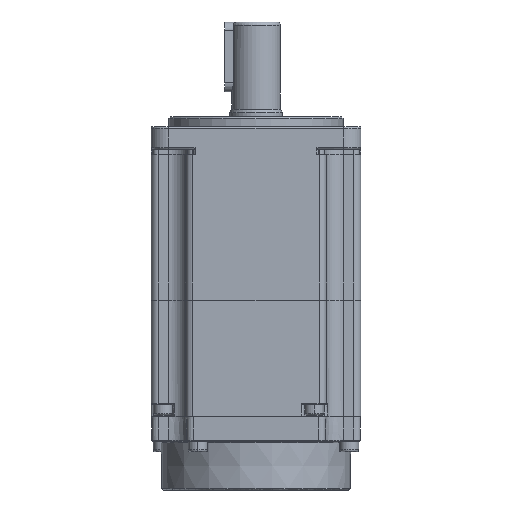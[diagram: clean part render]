
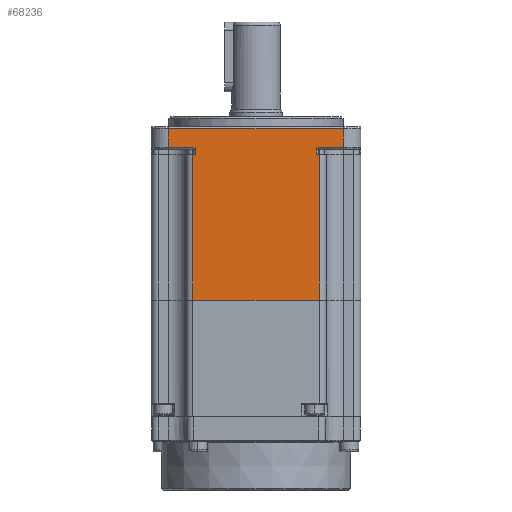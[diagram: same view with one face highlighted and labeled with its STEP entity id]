
A CAD part, front view. The second image highlights one B-rep face of the part: STEP entity #68236.
In plain terms, the highlighted planar face has unit normal (0, -1, 0).
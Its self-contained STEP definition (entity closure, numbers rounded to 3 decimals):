
#67 = DIRECTION ( 'NONE',  ( 0., 0., 1. ) ) ;
#172 = ORIENTED_EDGE ( 'NONE', *, *, #34114, .T. ) ;
#705 = ORIENTED_EDGE ( 'NONE', *, *, #75279, .T. ) ;
#971 = CARTESIAN_POINT ( 'NONE',  ( 17.616, -39.646, 51.9 ) ) ;
#1070 = DIRECTION ( 'NONE',  ( 0., 0., 1. ) ) ;
#2356 = ORIENTED_EDGE ( 'NONE', *, *, #48324, .T. ) ;
#4653 = DIRECTION ( 'NONE',  ( -1., 0., 0. ) ) ;
#4793 = DIRECTION ( 'NONE',  ( 1., 0., 0. ) ) ;
#5307 = CARTESIAN_POINT ( 'NONE',  ( -18.584, -39.646, 102.1 ) ) ;
#5423 = VECTOR ( 'NONE', #32673, 1000. ) ;
#5765 = DIRECTION ( 'NONE',  ( 0., 1., 0. ) ) ;
#6476 = LINE ( 'NONE', #34978, #60196 ) ;
#7951 = ORIENTED_EDGE ( 'NONE', *, *, #13849, .T. ) ;
#8014 = EDGE_CURVE ( 'NONE', #20606, #8984, #24004, .T. ) ;
#8984 = VERTEX_POINT ( 'NONE', #29429 ) ;
#9069 = DIRECTION ( 'NONE',  ( -1., 0., 0. ) ) ;
#9424 = EDGE_CURVE ( 'NONE', #22795, #62294, #44649, .T. ) ;
#11422 = LINE ( 'NONE', #42665, #62973 ) ;
#12263 = CARTESIAN_POINT ( 'NONE',  ( -25.584, -39.646, 95.7 ) ) ;
#12446 = CARTESIAN_POINT ( 'NONE',  ( -30.584, -39.646, 102.1 ) ) ;
#13849 = EDGE_CURVE ( 'NONE', #69277, #22795, #38050, .T. ) ;
#17552 = VECTOR ( 'NONE', #1070, 1000. ) ;
#19065 = EDGE_CURVE ( 'NONE', #58226, #65396, #6476, .T. ) ;
#19091 = ORIENTED_EDGE ( 'NONE', *, *, #59449, .T. ) ;
#19181 = CARTESIAN_POINT ( 'NONE',  ( 24.616, -39.646, 95.7 ) ) ;
#20516 = CARTESIAN_POINT ( 'NONE',  ( -17.984, -39.646, 95.7 ) ) ;
#20594 = VECTOR ( 'NONE', #4793, 1000. ) ;
#20606 = VERTEX_POINT ( 'NONE', #971 ) ;
#21428 = ORIENTED_EDGE ( 'NONE', *, *, #9424, .T. ) ;
#22011 = ORIENTED_EDGE ( 'NONE', *, *, #44324, .T. ) ;
#22795 = VERTEX_POINT ( 'NONE', #67773 ) ;
#22838 = EDGE_CURVE ( 'NONE', #41123, #86100, #78222, .T. ) ;
#24004 = LINE ( 'NONE', #35203, #5423 ) ;
#24923 = CARTESIAN_POINT ( 'NONE',  ( -30.584, -39.646, 101.1 ) ) ;
#25836 = LINE ( 'NONE', #27447, #60951 ) ;
#27447 = CARTESIAN_POINT ( 'NONE',  ( -25.584, -39.646, 102.1 ) ) ;
#29429 = CARTESIAN_POINT ( 'NONE',  ( 17.616, -39.646, 93.7 ) ) ;
#29572 = VERTEX_POINT ( 'NONE', #80166 ) ;
#29981 = AXIS2_PLACEMENT_3D ( 'NONE', #12446, #5765, #54856 ) ;
#31844 = ORIENTED_EDGE ( 'NONE', *, *, #22838, .T. ) ;
#32673 = DIRECTION ( 'NONE',  ( 0., 0., 1. ) ) ;
#34114 = EDGE_CURVE ( 'NONE', #65396, #52410, #78610, .T. ) ;
#34514 = DIRECTION ( 'NONE',  ( 0., 0., -1. ) ) ;
#34978 = CARTESIAN_POINT ( 'NONE',  ( 17.016, -39.646, 102.1 ) ) ;
#35203 = CARTESIAN_POINT ( 'NONE',  ( 17.616, -39.646, 102.1 ) ) ;
#36198 = LINE ( 'NONE', #84633, #17552 ) ;
#37010 = LINE ( 'NONE', #50907, #55748 ) ;
#38050 = LINE ( 'NONE', #20516, #73051 ) ;
#39690 = ORIENTED_EDGE ( 'NONE', *, *, #90335, .T. ) ;
#41069 = VECTOR ( 'NONE', #61031, 1000. ) ;
#41123 = VERTEX_POINT ( 'NONE', #62058 ) ;
#41803 = ORIENTED_EDGE ( 'NONE', *, *, #19065, .T. ) ;
#42665 = CARTESIAN_POINT ( 'NONE',  ( -30.584, -39.646, 51.9 ) ) ;
#44324 = EDGE_CURVE ( 'NONE', #62294, #41123, #57499, .T. ) ;
#44649 = LINE ( 'NONE', #48466, #81827 ) ;
#45356 = CARTESIAN_POINT ( 'NONE',  ( -18.584, -39.646, 51.9 ) ) ;
#47071 = CARTESIAN_POINT ( 'NONE',  ( 24.616, -39.646, 101.1 ) ) ;
#47542 = LINE ( 'NONE', #24923, #68267 ) ;
#47703 = CARTESIAN_POINT ( 'NONE',  ( 17.016, -39.646, 93.7 ) ) ;
#48324 = EDGE_CURVE ( 'NONE', #85219, #29572, #47542, .T. ) ;
#48466 = CARTESIAN_POINT ( 'NONE',  ( -17.984, -39.646, 102.1 ) ) ;
#49772 = DIRECTION ( 'NONE',  ( 0., 0., -1. ) ) ;
#50907 = CARTESIAN_POINT ( 'NONE',  ( -30.584, -39.646, 93.7 ) ) ;
#51120 = EDGE_LOOP ( 'NONE', ( #89778, #84321, #39690, #41803, #172, #705, #2356, #19091, #7951, #21428, #22011, #31844 ) ) ;
#52410 = VERTEX_POINT ( 'NONE', #63893 ) ;
#53201 = VECTOR ( 'NONE', #4653, 1000. ) ;
#54856 = DIRECTION ( 'NONE',  ( -1., 0., 0. ) ) ;
#55748 = VECTOR ( 'NONE', #9069, 1000. ) ;
#57499 = LINE ( 'NONE', #67742, #53201 ) ;
#58226 = VERTEX_POINT ( 'NONE', #47703 ) ;
#59449 = EDGE_CURVE ( 'NONE', #29572, #69277, #25836, .T. ) ;
#59649 = FACE_OUTER_BOUND ( 'NONE', #51120, .T. ) ;
#60196 = VECTOR ( 'NONE', #67, 1000. ) ;
#60951 = VECTOR ( 'NONE', #34514, 1000. ) ;
#61031 = DIRECTION ( 'NONE',  ( 0., 0., -1. ) ) ;
#62058 = CARTESIAN_POINT ( 'NONE',  ( -18.584, -39.646, 93.7 ) ) ;
#62294 = VERTEX_POINT ( 'NONE', #71381 ) ;
#62973 = VECTOR ( 'NONE', #63706, 1000. ) ;
#63706 = DIRECTION ( 'NONE',  ( -1., 0., 0. ) ) ;
#63893 = CARTESIAN_POINT ( 'NONE',  ( 24.616, -39.646, 95.7 ) ) ;
#65396 = VERTEX_POINT ( 'NONE', #85145 ) ;
#67742 = CARTESIAN_POINT ( 'NONE',  ( -30.584, -39.646, 93.7 ) ) ;
#67773 = CARTESIAN_POINT ( 'NONE',  ( -17.984, -39.646, 95.7 ) ) ;
#67909 = EDGE_CURVE ( 'NONE', #20606, #86100, #11422, .T. ) ;
#68236 = ADVANCED_FACE ( 'NONE', ( #59649 ), #89648, .F. ) ;
#68267 = VECTOR ( 'NONE', #73922, 1000. ) ;
#69277 = VERTEX_POINT ( 'NONE', #12263 ) ;
#71381 = CARTESIAN_POINT ( 'NONE',  ( -17.984, -39.646, 93.7 ) ) ;
#73051 = VECTOR ( 'NONE', #76508, 1000. ) ;
#73922 = DIRECTION ( 'NONE',  ( -1., 0., 0. ) ) ;
#75279 = EDGE_CURVE ( 'NONE', #52410, #85219, #36198, .T. ) ;
#76508 = DIRECTION ( 'NONE',  ( 1., 0., 0. ) ) ;
#78222 = LINE ( 'NONE', #5307, #41069 ) ;
#78610 = LINE ( 'NONE', #19181, #20594 ) ;
#80166 = CARTESIAN_POINT ( 'NONE',  ( -25.584, -39.646, 101.1 ) ) ;
#81827 = VECTOR ( 'NONE', #49772, 1000. ) ;
#84321 = ORIENTED_EDGE ( 'NONE', *, *, #8014, .T. ) ;
#84633 = CARTESIAN_POINT ( 'NONE',  ( 24.616, -39.646, 102.1 ) ) ;
#85145 = CARTESIAN_POINT ( 'NONE',  ( 17.016, -39.646, 95.7 ) ) ;
#85219 = VERTEX_POINT ( 'NONE', #47071 ) ;
#86100 = VERTEX_POINT ( 'NONE', #45356 ) ;
#89648 = PLANE ( 'NONE',  #29981 ) ;
#89778 = ORIENTED_EDGE ( 'NONE', *, *, #67909, .F. ) ;
#90335 = EDGE_CURVE ( 'NONE', #8984, #58226, #37010, .T. ) ;
